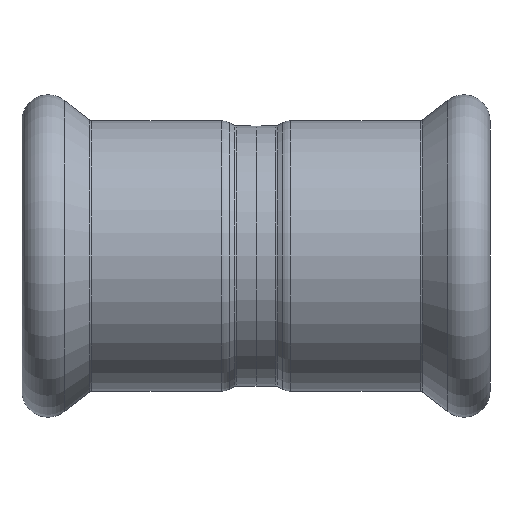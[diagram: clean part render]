
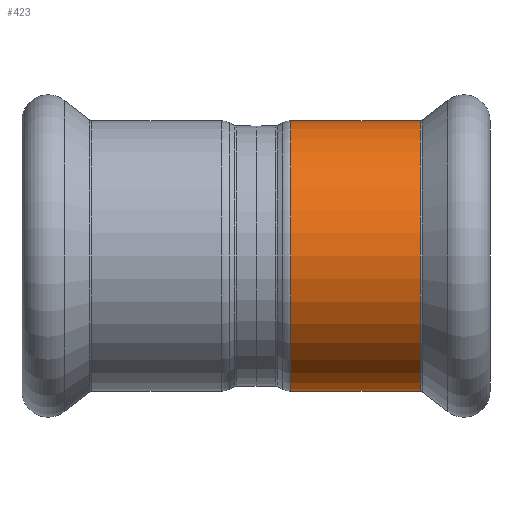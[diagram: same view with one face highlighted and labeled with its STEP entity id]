
A CAD part, front view. The second image highlights one B-rep face of the part: STEP entity #423.
In plain terms, the highlighted cylindrical face has radius 15.6 mm (diameter 31.2 mm), a partial arc.
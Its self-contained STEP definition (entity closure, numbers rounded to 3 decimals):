
#16 = ORIENTED_EDGE ( 'NONE', *, *, #1036, .T. ) ;
#127 = CARTESIAN_POINT ( 'NONE',  ( 4., 0., 0. ) ) ;
#144 = VERTEX_POINT ( 'NONE', #1896 ) ;
#146 = AXIS2_PLACEMENT_3D ( 'NONE', #127, #1647, #1188 ) ;
#305 = VERTEX_POINT ( 'NONE', #784 ) ;
#423 = ADVANCED_FACE ( 'NONE', ( #819 ), #1694, .T. ) ;
#436 = CARTESIAN_POINT ( 'NONE',  ( 4., 0., -15.6 ) ) ;
#450 = DIRECTION ( 'NONE',  ( 0., 0., 1. ) ) ;
#477 = VERTEX_POINT ( 'NONE', #1897 ) ;
#603 = DIRECTION ( 'NONE',  ( -1., 0., 0. ) ) ;
#784 = CARTESIAN_POINT ( 'NONE',  ( 4., 0., 15.6 ) ) ;
#819 = FACE_OUTER_BOUND ( 'NONE', #920, .T. ) ;
#825 = ORIENTED_EDGE ( 'NONE', *, *, #1685, .F. ) ;
#832 = AXIS2_PLACEMENT_3D ( 'NONE', #1074, #1370, #1223 ) ;
#920 = EDGE_LOOP ( 'NONE', ( #1527, #965, #16, #825 ) ) ;
#953 = CIRCLE ( 'NONE', #1494, 15.6 ) ;
#965 = ORIENTED_EDGE ( 'NONE', *, *, #1857, .T. ) ;
#1016 = LINE ( 'NONE', #1951, #1906 ) ;
#1017 = DIRECTION ( 'NONE',  ( -1., 0., 0. ) ) ;
#1036 = EDGE_CURVE ( 'NONE', #477, #305, #1016, .T. ) ;
#1056 = VECTOR ( 'NONE', #1750, 1000. ) ;
#1074 = CARTESIAN_POINT ( 'NONE',  ( -47.221, 0., 0. ) ) ;
#1137 = EDGE_CURVE ( 'NONE', #144, #1749, #1466, .T. ) ;
#1188 = DIRECTION ( 'NONE',  ( 0., 0., 1. ) ) ;
#1223 = DIRECTION ( 'NONE',  ( 0., 0., 1. ) ) ;
#1370 = DIRECTION ( 'NONE',  ( -1., 0., 0. ) ) ;
#1466 = LINE ( 'NONE', #1762, #1056 ) ;
#1494 = AXIS2_PLACEMENT_3D ( 'NONE', #1987, #603, #450 ) ;
#1527 = ORIENTED_EDGE ( 'NONE', *, *, #1137, .F. ) ;
#1647 = DIRECTION ( 'NONE',  ( -1., 0., 0. ) ) ;
#1685 = EDGE_CURVE ( 'NONE', #1749, #305, #1936, .T. ) ;
#1694 = CYLINDRICAL_SURFACE ( 'NONE', #832, 15.6 ) ;
#1749 = VERTEX_POINT ( 'NONE', #436 ) ;
#1750 = DIRECTION ( 'NONE',  ( -1., 0., 0. ) ) ;
#1762 = CARTESIAN_POINT ( 'NONE',  ( -47.221, 0., -15.6 ) ) ;
#1857 = EDGE_CURVE ( 'NONE', #144, #477, #953, .T. ) ;
#1896 = CARTESIAN_POINT ( 'NONE',  ( 18.955, 0., -15.6 ) ) ;
#1897 = CARTESIAN_POINT ( 'NONE',  ( 18.955, 0., 15.6 ) ) ;
#1906 = VECTOR ( 'NONE', #1017, 1000. ) ;
#1936 = CIRCLE ( 'NONE', #146, 15.6 ) ;
#1951 = CARTESIAN_POINT ( 'NONE',  ( -47.221, 0., 15.6 ) ) ;
#1987 = CARTESIAN_POINT ( 'NONE',  ( 18.955, 0., 0. ) ) ;
